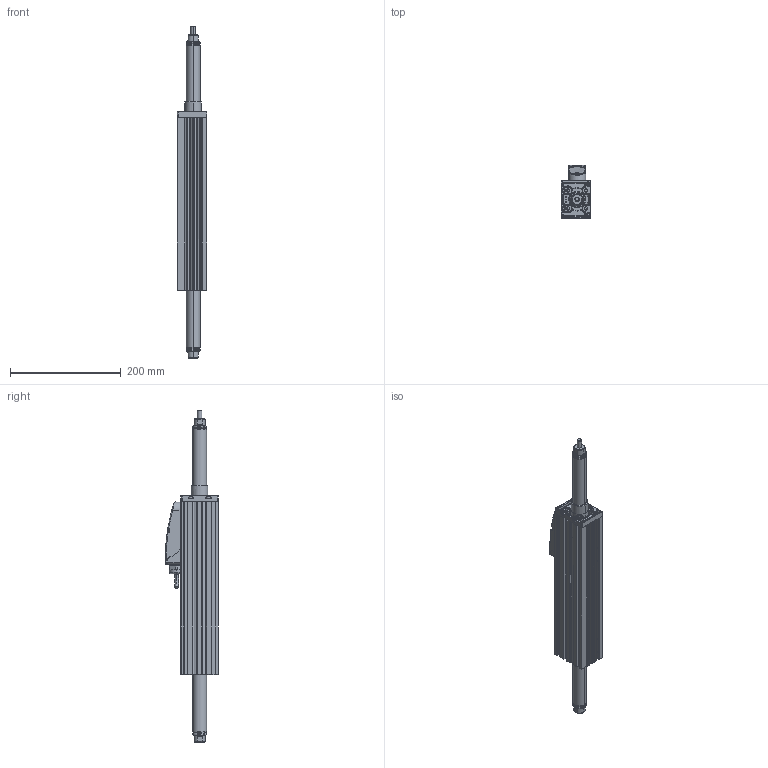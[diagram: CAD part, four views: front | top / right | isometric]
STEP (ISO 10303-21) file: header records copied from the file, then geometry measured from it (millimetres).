
FILE_DESCRIPTION (( 'STEP AP203' ), '1' );
FILE_NAME ('STA2510-206.STEP', '2011-10-13T14:19:52', ( 'showsden' ), ( '' ), 'SwSTEP 2.0', 'SolidWorks 2011', '' );
FILE_SCHEMA (( 'CONFIG_CONTROL_DESIGN' ));
Products named in the file (14): ST25 POD (DLS)_ST25 POD (SOLID); Screw, Cap Head, M2.5_Screw, Cap Head, M2.5 x 6; Screw, Button Head, M3_Screw, Button Head, M3 x 10; PG16 Gland Nut (REV2)_PG16 (REV 2); SIGNAL CABLE_FLEXING (SIGNAL); POWER CABLE_FLEXING (POWER); ST25 CABLE ASSEMBLY (REV2)_MA02197 (FLEXING); MP02254-D ST25 Pod Base Gasket_MP02254; ST25 POD ASSEMBLY (DLS)_ST25 POD ASSEMBLY (SOLID); STA25 MOTOR HOUSING (REV-B)_STA2510; STA25 Bearing End Support - Solid_MP02261; Screw, Cap Head, M4_Screw, Cap Head, M4 x 16; TRA25 Thrust Rod - Solid_TRA2510 (206); STA2510-206
Assembly tree (20 placements, depth 4):
  STA2510-206
    Screw, Cap Head, M4_Screw, Cap Head, M4 x 16  x4
    TRA25 Thrust Rod - Solid_TRA2510 (206)
    ST25 POD ASSEMBLY (DLS)_ST25 POD ASSEMBLY (SOLID)
      Screw, Button Head, M3_Screw, Button Head, M3 x 10  x4
      MP02254-D ST25 Pod Base Gasket_MP02254
      Screw, Cap Head, M2.5_Screw, Cap Head, M2.5 x 6  x2
      ST25 CABLE ASSEMBLY (REV2)_MA02197 (FLEXING)
        POWER CABLE_FLEXING (POWER)
        SIGNAL CABLE_FLEXING (SIGNAL)
        PG16 Gland Nut (REV2)_PG16 (REV 2)
      ST25 POD (DLS)_ST25 POD (SOLID)
    STA25 Bearing End Support - Solid_MP02261
    STA25 MOTOR HOUSING (REV-B)_STA2510
Bounding box: 54 x 95.5 x 599 mm (x, y, z)
Volume: 1181319.7 mm3; surface area: 280895.7 mm2
Topology: 18 solids, 18 shells, 1636 faces, 4226 edges, 2687 vertices
Faces by surface type: plane 567, cylinder 516, bspline 365, cone 116, torus 56, sphere 16
Entity records: 75343 total; most frequent: CARTESIAN_POINT 39247, ORIENTED_EDGE 7888, DIRECTION 6221, EDGE_CURVE 3944, VERTEX_POINT 2531, AXIS2_PLACEMENT_3D 2326, EDGE_LOOP 1659, VECTOR 1569
